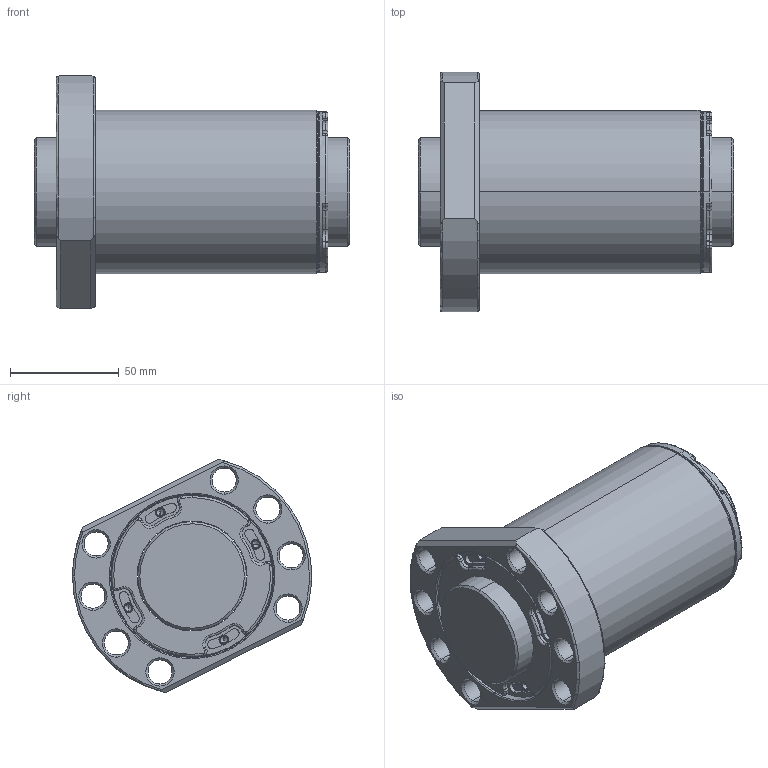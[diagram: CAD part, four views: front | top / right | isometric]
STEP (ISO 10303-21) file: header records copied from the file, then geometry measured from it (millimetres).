
FILE_DESCRIPTION (( 'STEP AP203' ), '1' );
FILE_NAME ('SFSR05050A1D-C.STEP', '2020-06-17T01:56:28', ( '' ), ( '' ), 'SwSTEP 2.0', 'SolidWorks 2013', '' );
FILE_SCHEMA (( 'CONFIG_CONTROL_DESIGN' ));
Length unit declared in the file: millimetre
Products named in the file (1): SFSR05050A1D-C
Bounding box: 145 x 109.93 x 107.22 mm (x, y, z)
Volume: 624661.7 mm3; surface area: 97858 mm2
Topology: 2 solids, 2 shells, 417 faces, 1031 edges, 629 vertices
Faces by surface type: cylinder 184, plane 85, torus 80, cone 68
Entity records: 14639 total; most frequent: CARTESIAN_POINT 4331, DIRECTION 2410, ORIENTED_EDGE 2030, AXIS2_PLACEMENT_3D 1046, EDGE_CURVE 1015, VERTEX_POINT 629, CIRCLE 628, EDGE_LOOP 464
